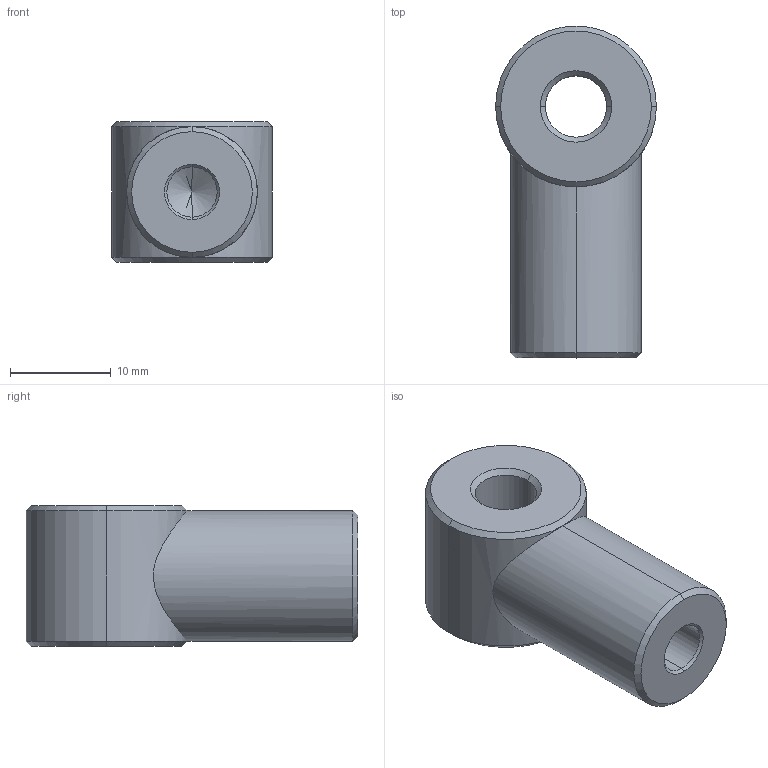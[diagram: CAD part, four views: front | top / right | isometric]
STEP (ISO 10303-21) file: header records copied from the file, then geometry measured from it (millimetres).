
FILE_DESCRIPTION (( 'STEP AP214' ), '1' );
FILE_NAME ('18.06SM025KNST.STEP', '2017-11-13T11:11:49', ( '' ), ( '' ), 'SwSTEP 2.0', 'SolidWorks 2016', '' );
FILE_SCHEMA (( 'AUTOMOTIVE_DESIGN' ));
Length unit declared in the file: millimetre
Products named in the file (1): 18.06SM025KNST
Bounding box: 16 x 33 x 14 mm (x, y, z)
Volume: 4510.5 mm3; surface area: 2179.2 mm2
Topology: 1 solids, 1 shells, 26 faces, 54 edges, 29 vertices
Faces by surface type: cone 14, cylinder 9, plane 3
Entity records: 796 total; most frequent: CARTESIAN_POINT 202, DIRECTION 132, ORIENTED_EDGE 104, AXIS2_PLACEMENT_3D 55, EDGE_CURVE 52, VERTEX_POINT 29, EDGE_LOOP 29, CIRCLE 28
